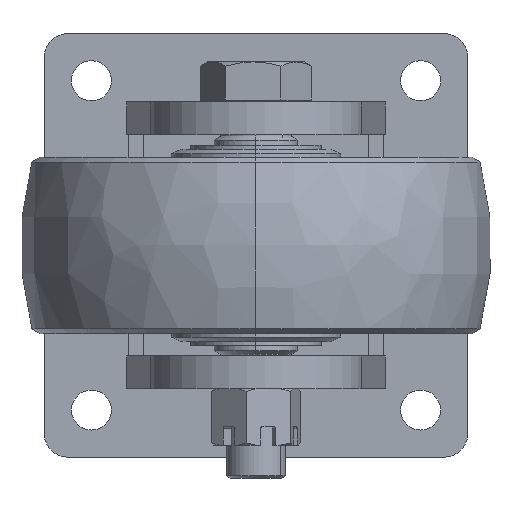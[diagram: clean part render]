
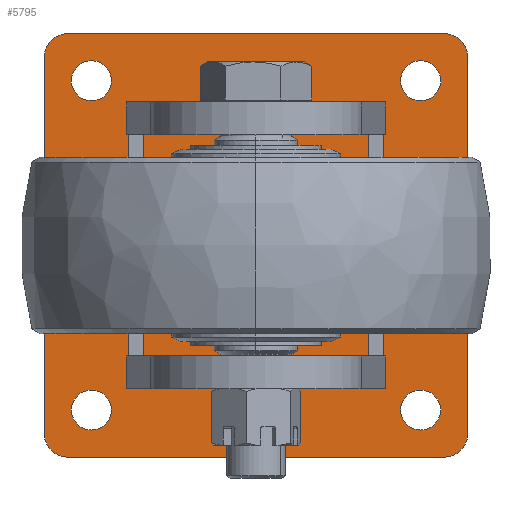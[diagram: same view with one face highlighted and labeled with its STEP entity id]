
A CAD part, front view. The second image highlights one B-rep face of the part: STEP entity #5795.
In plain terms, the highlighted planar face has unit normal (0, -1, 0).
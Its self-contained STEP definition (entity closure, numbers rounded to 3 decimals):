
#25 = CIRCLE ( 'NONE', #2236, 8.5 ) ;
#41 = VERTEX_POINT ( 'NONE', #765 ) ;
#251 = DIRECTION ( 'NONE',  ( 0., 1., 0. ) ) ;
#496 = VERTEX_POINT ( 'NONE', #9716 ) ;
#657 = CARTESIAN_POINT ( 'NONE',  ( -11.623, -1.919, -78.5 ) ) ;
#667 = DIRECTION ( 'NONE',  ( 0., 0., -1. ) ) ;
#673 = DIRECTION ( 'NONE',  ( 0., 0., -1. ) ) ;
#745 = DIRECTION ( 'NONE',  ( 0., 1., 0. ) ) ;
#765 = CARTESIAN_POINT ( 'NONE',  ( 138.377, -1.919, -90. ) ) ;
#782 = CARTESIAN_POINT ( 'NONE',  ( -21.623, -1.919, 80. ) ) ;
#808 = VECTOR ( 'NONE', #667, 1000. ) ;
#815 = VERTEX_POINT ( 'NONE', #2068 ) ;
#820 = CARTESIAN_POINT ( 'NONE',  ( 148.377, -1.919, 90. ) ) ;
#829 = ORIENTED_EDGE ( 'NONE', *, *, #7568, .F. ) ;
#831 = AXIS2_PLACEMENT_3D ( 'NONE', #5069, #5792, #2562 ) ;
#1023 = FACE_BOUND ( 'NONE', #5440, .T. ) ;
#1100 = CIRCLE ( 'NONE', #6778, 8.5 ) ;
#1105 = ORIENTED_EDGE ( 'NONE', *, *, #2079, .T. ) ;
#1174 = VECTOR ( 'NONE', #9952, 1000. ) ;
#1266 = EDGE_LOOP ( 'NONE', ( #7328, #6231 ) ) ;
#1294 = CIRCLE ( 'NONE', #3030, 8.5 ) ;
#1413 = DIRECTION ( 'NONE',  ( 0., 0., -1. ) ) ;
#1485 = CARTESIAN_POINT ( 'NONE',  ( 128.377, -1.919, -70. ) ) ;
#1496 = DIRECTION ( 'NONE',  ( 0., 0., -1. ) ) ;
#1514 = CARTESIAN_POINT ( 'NONE',  ( -11.623, -1.919, -70. ) ) ;
#1530 = CARTESIAN_POINT ( 'NONE',  ( -31.623, -1.919, 90. ) ) ;
#1866 = CARTESIAN_POINT ( 'NONE',  ( -11.623, -1.919, 78.5 ) ) ;
#2068 = CARTESIAN_POINT ( 'NONE',  ( 128.377, -1.919, -61.5 ) ) ;
#2079 = EDGE_CURVE ( 'NONE', #6570, #4714, #7231, .T. ) ;
#2236 = AXIS2_PLACEMENT_3D ( 'NONE', #1485, #5445, #8811 ) ;
#2278 = ORIENTED_EDGE ( 'NONE', *, *, #4723, .T. ) ;
#2384 = AXIS2_PLACEMENT_3D ( 'NONE', #2529, #7440, #7546 ) ;
#2453 = EDGE_CURVE ( 'NONE', #9128, #815, #25, .T. ) ;
#2529 = CARTESIAN_POINT ( 'NONE',  ( 138.377, -1.919, 80. ) ) ;
#2554 = ORIENTED_EDGE ( 'NONE', *, *, #8800, .T. ) ;
#2562 = DIRECTION ( 'NONE',  ( 0., 0., -1. ) ) ;
#2670 = CARTESIAN_POINT ( 'NONE',  ( 138.377, -1.919, 90. ) ) ;
#3023 = DIRECTION ( 'NONE',  ( 0., 1., 0. ) ) ;
#3030 = AXIS2_PLACEMENT_3D ( 'NONE', #8190, #9818, #673 ) ;
#3146 = DIRECTION ( 'NONE',  ( 0., 1., 0. ) ) ;
#3150 = CARTESIAN_POINT ( 'NONE',  ( 128.377, -1.919, -78.5 ) ) ;
#3163 = EDGE_CURVE ( 'NONE', #6034, #4714, #6319, .T. ) ;
#3413 = CIRCLE ( 'NONE', #7872, 8.5 ) ;
#3532 = DIRECTION ( 'NONE',  ( 0., 0., -1. ) ) ;
#3567 = ORIENTED_EDGE ( 'NONE', *, *, #4190, .T. ) ;
#3570 = CARTESIAN_POINT ( 'NONE',  ( -11.623, -1.919, -70. ) ) ;
#3633 = AXIS2_PLACEMENT_3D ( 'NONE', #7360, #745, #1496 ) ;
#3769 = DIRECTION ( 'NONE',  ( 0., -1., 0. ) ) ;
#3893 = CARTESIAN_POINT ( 'NONE',  ( 148.377, -1.919, 80. ) ) ;
#3903 = ORIENTED_EDGE ( 'NONE', *, *, #2453, .T. ) ;
#3904 = DIRECTION ( 'NONE',  ( 0., 0., -1. ) ) ;
#3973 = CARTESIAN_POINT ( 'NONE',  ( 128.377, -1.919, 70. ) ) ;
#4178 = ORIENTED_EDGE ( 'NONE', *, *, #8939, .T. ) ;
#4190 = EDGE_CURVE ( 'NONE', #4804, #9582, #4919, .T. ) ;
#4283 = AXIS2_PLACEMENT_3D ( 'NONE', #3570, #251, #5988 ) ;
#4397 = VECTOR ( 'NONE', #9624, 1000. ) ;
#4431 = ORIENTED_EDGE ( 'NONE', *, *, #3163, .F. ) ;
#4711 = DIRECTION ( 'NONE',  ( 0., 0., -1. ) ) ;
#4714 = VERTEX_POINT ( 'NONE', #3893 ) ;
#4723 = EDGE_CURVE ( 'NONE', #6034, #8155, #5166, .T. ) ;
#4782 = VERTEX_POINT ( 'NONE', #9870 ) ;
#4795 = VERTEX_POINT ( 'NONE', #7423 ) ;
#4804 = VERTEX_POINT ( 'NONE', #10546 ) ;
#4919 = LINE ( 'NONE', #1530, #808 ) ;
#5029 = CARTESIAN_POINT ( 'NONE',  ( -11.623, -1.919, -61.5 ) ) ;
#5069 = CARTESIAN_POINT ( 'NONE',  ( -11.623, -1.919, 70. ) ) ;
#5166 = LINE ( 'NONE', #8840, #4397 ) ;
#5241 = DIRECTION ( 'NONE',  ( 0., 1., 0. ) ) ;
#5440 = EDGE_LOOP ( 'NONE', ( #3903, #6501 ) ) ;
#5445 = DIRECTION ( 'NONE',  ( 0., 1., 0. ) ) ;
#5516 = FACE_BOUND ( 'NONE', #8058, .T. ) ;
#5574 = EDGE_CURVE ( 'NONE', #4782, #6787, #9744, .T. ) ;
#5582 = DIRECTION ( 'NONE',  ( 0., 0., -1. ) ) ;
#5782 = CARTESIAN_POINT ( 'NONE',  ( -21.623, -1.919, 90. ) ) ;
#5792 = DIRECTION ( 'NONE',  ( 0., 1., 0. ) ) ;
#5795 = ADVANCED_FACE ( 'NONE', ( #9875, #9123, #5516, #6042, #1023 ), #7014, .T. ) ;
#5988 = DIRECTION ( 'NONE',  ( 0., 0., -1. ) ) ;
#6034 = VERTEX_POINT ( 'NONE', #2670 ) ;
#6038 = EDGE_CURVE ( 'NONE', #7757, #496, #9370, .T. ) ;
#6042 = FACE_BOUND ( 'NONE', #9527, .T. ) ;
#6086 = EDGE_CURVE ( 'NONE', #815, #9128, #1294, .T. ) ;
#6120 = CIRCLE ( 'NONE', #831, 8.5 ) ;
#6138 = CIRCLE ( 'NONE', #8059, 10. ) ;
#6166 = LINE ( 'NONE', #8278, #6294 ) ;
#6231 = ORIENTED_EDGE ( 'NONE', *, *, #9537, .T. ) ;
#6294 = VECTOR ( 'NONE', #9090, 1000. ) ;
#6319 = CIRCLE ( 'NONE', #2384, 10. ) ;
#6411 = CIRCLE ( 'NONE', #3633, 10. ) ;
#6501 = ORIENTED_EDGE ( 'NONE', *, *, #6086, .T. ) ;
#6505 = DIRECTION ( 'NONE',  ( 0., 1., 0. ) ) ;
#6520 = CARTESIAN_POINT ( 'NONE',  ( 148.377, -1.919, -80. ) ) ;
#6540 = EDGE_CURVE ( 'NONE', #4795, #41, #6166, .T. ) ;
#6570 = VERTEX_POINT ( 'NONE', #6520 ) ;
#6634 = ORIENTED_EDGE ( 'NONE', *, *, #6038, .T. ) ;
#6709 = ORIENTED_EDGE ( 'NONE', *, *, #7921, .F. ) ;
#6737 = AXIS2_PLACEMENT_3D ( 'NONE', #8701, #3769, #4711 ) ;
#6778 = AXIS2_PLACEMENT_3D ( 'NONE', #1514, #10506, #1413 ) ;
#6787 = VERTEX_POINT ( 'NONE', #7330 ) ;
#6905 = ORIENTED_EDGE ( 'NONE', *, *, #5574, .T. ) ;
#7014 = PLANE ( 'NONE',  #6737 ) ;
#7231 = LINE ( 'NONE', #820, #1174 ) ;
#7328 = ORIENTED_EDGE ( 'NONE', *, *, #9378, .T. ) ;
#7330 = CARTESIAN_POINT ( 'NONE',  ( 128.377, -1.919, 61.5 ) ) ;
#7360 = CARTESIAN_POINT ( 'NONE',  ( 138.377, -1.919, -80. ) ) ;
#7423 = CARTESIAN_POINT ( 'NONE',  ( -21.623, -1.919, -90. ) ) ;
#7440 = DIRECTION ( 'NONE',  ( 0., 1., 0. ) ) ;
#7546 = DIRECTION ( 'NONE',  ( 0., 0., -1. ) ) ;
#7568 = EDGE_CURVE ( 'NONE', #6570, #41, #6411, .T. ) ;
#7569 = EDGE_CURVE ( 'NONE', #4804, #8155, #6138, .T. ) ;
#7675 = VERTEX_POINT ( 'NONE', #5029 ) ;
#7757 = VERTEX_POINT ( 'NONE', #1866 ) ;
#7785 = EDGE_LOOP ( 'NONE', ( #3567, #6709, #8237, #829, #1105, #4431, #2278, #9482 ) ) ;
#7872 = AXIS2_PLACEMENT_3D ( 'NONE', #8542, #5241, #3532 ) ;
#7921 = EDGE_CURVE ( 'NONE', #4795, #9582, #10616, .T. ) ;
#8041 = AXIS2_PLACEMENT_3D ( 'NONE', #10451, #3023, #3904 ) ;
#8058 = EDGE_LOOP ( 'NONE', ( #2554, #6634 ) ) ;
#8059 = AXIS2_PLACEMENT_3D ( 'NONE', #782, #6505, #8930 ) ;
#8104 = DIRECTION ( 'NONE',  ( 0., 0., -1. ) ) ;
#8155 = VERTEX_POINT ( 'NONE', #5782 ) ;
#8190 = CARTESIAN_POINT ( 'NONE',  ( 128.377, -1.919, -70. ) ) ;
#8237 = ORIENTED_EDGE ( 'NONE', *, *, #6540, .T. ) ;
#8278 = CARTESIAN_POINT ( 'NONE',  ( -31.623, -1.919, -90. ) ) ;
#8542 = CARTESIAN_POINT ( 'NONE',  ( 128.377, -1.919, 70. ) ) ;
#8593 = AXIS2_PLACEMENT_3D ( 'NONE', #3973, #10487, #5582 ) ;
#8701 = CARTESIAN_POINT ( 'NONE',  ( 58.377, -1.919, 0. ) ) ;
#8794 = CIRCLE ( 'NONE', #4283, 8.5 ) ;
#8800 = EDGE_CURVE ( 'NONE', #496, #7757, #6120, .T. ) ;
#8811 = DIRECTION ( 'NONE',  ( 0., 0., -1. ) ) ;
#8840 = CARTESIAN_POINT ( 'NONE',  ( -31.623, -1.919, 90. ) ) ;
#8930 = DIRECTION ( 'NONE',  ( 0., 0., -1. ) ) ;
#8939 = EDGE_CURVE ( 'NONE', #6787, #4782, #3413, .T. ) ;
#9090 = DIRECTION ( 'NONE',  ( 1., 0., 0. ) ) ;
#9123 = FACE_BOUND ( 'NONE', #1266, .T. ) ;
#9128 = VERTEX_POINT ( 'NONE', #3150 ) ;
#9145 = AXIS2_PLACEMENT_3D ( 'NONE', #10408, #3146, #8104 ) ;
#9352 = VERTEX_POINT ( 'NONE', #657 ) ;
#9370 = CIRCLE ( 'NONE', #8041, 8.5 ) ;
#9378 = EDGE_CURVE ( 'NONE', #9352, #7675, #1100, .T. ) ;
#9482 = ORIENTED_EDGE ( 'NONE', *, *, #7569, .F. ) ;
#9527 = EDGE_LOOP ( 'NONE', ( #4178, #6905 ) ) ;
#9537 = EDGE_CURVE ( 'NONE', #7675, #9352, #8794, .T. ) ;
#9582 = VERTEX_POINT ( 'NONE', #10066 ) ;
#9624 = DIRECTION ( 'NONE',  ( -1., 0., 0. ) ) ;
#9716 = CARTESIAN_POINT ( 'NONE',  ( -11.623, -1.919, 61.5 ) ) ;
#9744 = CIRCLE ( 'NONE', #8593, 8.5 ) ;
#9818 = DIRECTION ( 'NONE',  ( 0., 1., 0. ) ) ;
#9870 = CARTESIAN_POINT ( 'NONE',  ( 128.377, -1.919, 78.5 ) ) ;
#9875 = FACE_OUTER_BOUND ( 'NONE', #7785, .T. ) ;
#9952 = DIRECTION ( 'NONE',  ( 0., 0., 1. ) ) ;
#10066 = CARTESIAN_POINT ( 'NONE',  ( -31.623, -1.919, -80. ) ) ;
#10408 = CARTESIAN_POINT ( 'NONE',  ( -21.623, -1.919, -80. ) ) ;
#10451 = CARTESIAN_POINT ( 'NONE',  ( -11.623, -1.919, 70. ) ) ;
#10487 = DIRECTION ( 'NONE',  ( 0., 1., 0. ) ) ;
#10506 = DIRECTION ( 'NONE',  ( 0., 1., 0. ) ) ;
#10546 = CARTESIAN_POINT ( 'NONE',  ( -31.623, -1.919, 80. ) ) ;
#10616 = CIRCLE ( 'NONE', #9145, 10. ) ;
